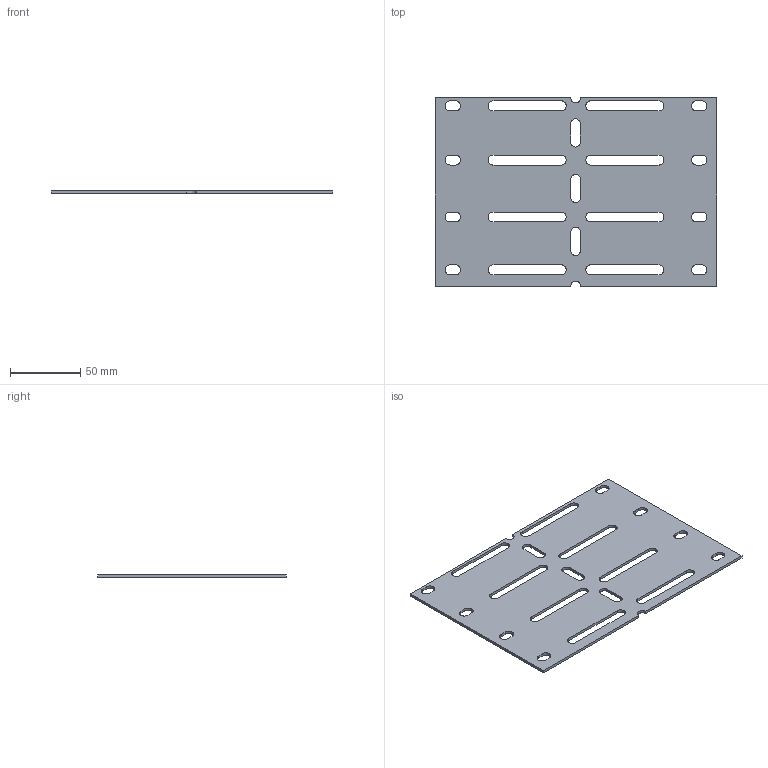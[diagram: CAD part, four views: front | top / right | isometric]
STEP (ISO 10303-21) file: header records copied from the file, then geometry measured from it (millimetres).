
FILE_DESCRIPTION (( 'STEP AP203' ), '1' );
FILE_NAME ('UHH050.STEP', '2015-04-01T13:04:48', ( '' ), ( '' ), 'SwSTEP 2.0', 'SolidWorks 2014', '' );
FILE_SCHEMA (( 'CONFIG_CONTROL_DESIGN' ));
Length unit declared in the file: millimetre
Products named in the file (1): UHH050
Bounding box: 200 x 133.75 x 2 mm (x, y, z)
Volume: 45534.6 mm3; surface area: 49557.3 mm2
Topology: 1 solids, 1 shells, 102 faces, 300 edges, 200 vertices
Faces by surface type: cylinder 56, plane 46
Entity records: 3589 total; most frequent: DIRECTION 618, CARTESIAN_POINT 603, ORIENTED_EDGE 600, EDGE_CURVE 300, AXIS2_PLACEMENT_3D 215, VERTEX_POINT 200, VECTOR 188, LINE 188
